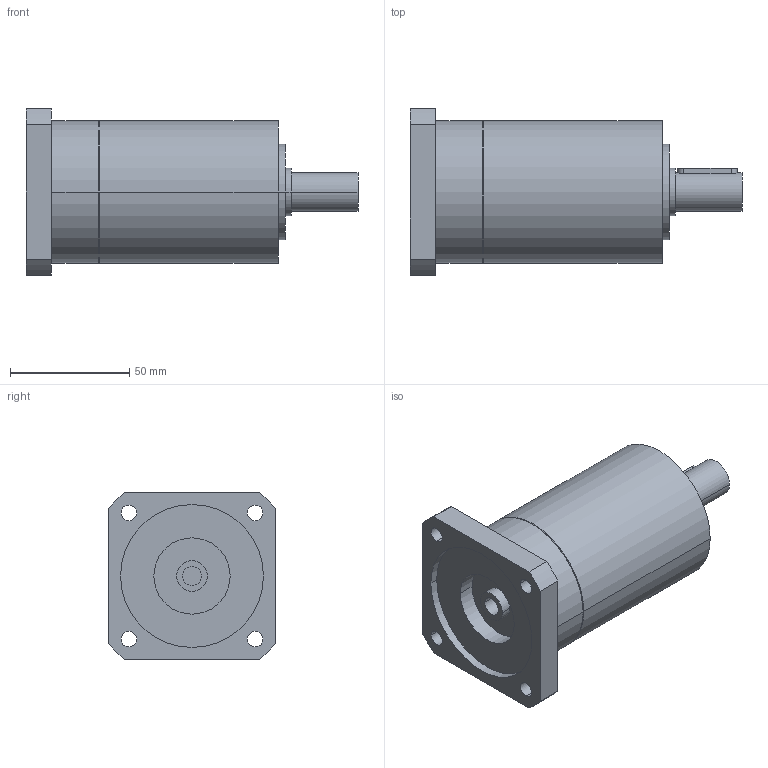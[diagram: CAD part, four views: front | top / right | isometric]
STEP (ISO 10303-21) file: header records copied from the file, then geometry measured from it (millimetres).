
FILE_DESCRIPTION(('CoCreate Modeling STEP Export'),'2;1');
FILE_NAME('GPR75_ig-9-12-16-20-24-30-36_16_B14_8_P04.stp','2014-08-25T16:05:53',(''),(''),'CoCreate Modeling STEP processor for AP214 (Solid Model)','CoCreate Modeling 16.00C 25-Feb-2009 (C) Parametric Technology GmbH','');
FILE_SCHEMA(('AUTOMOTIVE_DESIGN { 1 0 10303 214 1 1 1 1 }'));
Length unit declared in the file: millimetre
Products named in the file (2): GPR75_ig-9-12-16-20-24-30-36_16_B14_8_P04
Assembly tree (1 placements, depth 2):
  GPR75_ig-9-12-16-20-24-30-36_16_B14_8_P04
    GPR75_ig-9-12-16-20-24-30-36_16_B14_8_P04
Bounding box: 139.4 x 70 x 70 mm (x, y, z)
Volume: 312455.9 mm3; surface area: 36050.4 mm2
Topology: 1 solids, 1 shells, 70 faces, 189 edges, 133 vertices
Faces by surface type: cylinder 42, plane 22, cone 6
Entity records: 1944 total; most frequent: ORIENTED_EDGE 374, CARTESIAN_POINT 361, DIRECTION 262, EDGE_CURVE 187, VERTEX_POINT 133, AXIS2_PLACEMENT_3D 98, EDGE_LOOP 92, FACE_OUTER_BOUND 70
